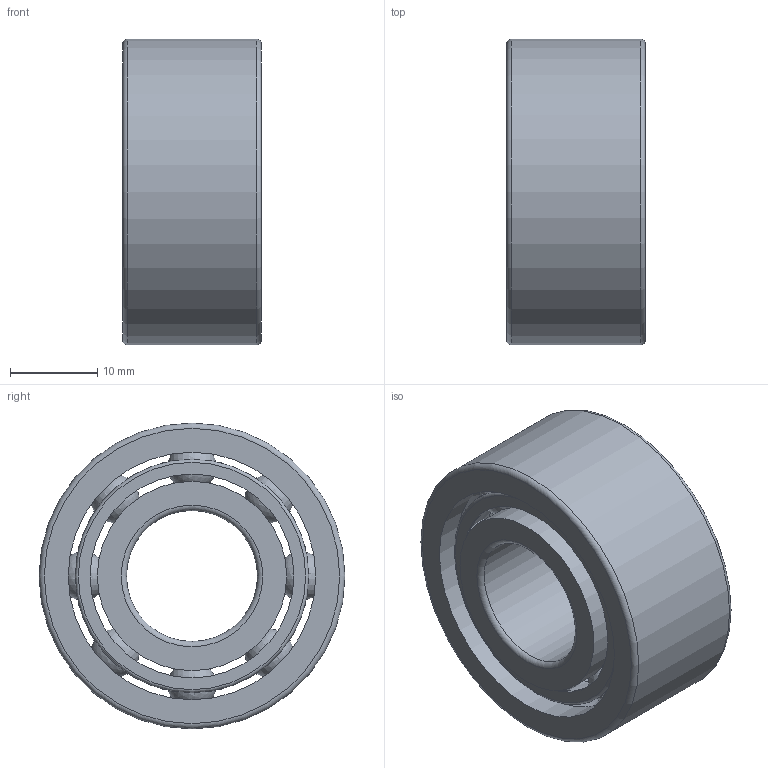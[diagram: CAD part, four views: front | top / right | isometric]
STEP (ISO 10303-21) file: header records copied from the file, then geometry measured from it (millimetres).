
FILE_DESCRIPTION(/* description */ (''),/* implementation_level */ '2;1');
FILE_NAME(/* name */ 'D:\moje\parametrické\32--,33--\32--\32--\3202.stp',/* time_stamp */ '2016-03-17T10:51:34+01:00',/* author */ ('OUBALASKO'),/* organization */ (''),/* preprocessor_version */ 'ST-DEVELOPER v15.2',/* originating_system */ 'Autodesk Inventor 2014',/* authorisation */ '');
FILE_SCHEMA (('AUTOMOTIVE_DESIGN { 1 0 10303 214 3 1 1 }'));
Length unit declared in the file: millimetre
Products named in the file (5): 3202-02; 3202-ball; 3202-cage; 3202-01; 3202
Bounding box: 15.9 x 35 x 35 mm (x, y, z)
Volume: 8905.4 mm3; surface area: 9551.8 mm2
Topology: 20 solids, 20 shells, 82 faces, 206 edges, 132 vertices
Faces by surface type: plane 24, sphere 16, bspline 16, cylinder 14, torus 12
Full cylindrical faces by diameter (mm): 15 x1, 21.666 x3, 23.333 x2, 26.111 x2, 26.711 x2, 28.334 x3, 35 x1
Entity records: 1966 total; most frequent: CARTESIAN_POINT 924, DIRECTION 208, ORIENTED_EDGE 150, AXIS2_PLACEMENT_3D 104, EDGE_CURVE 75, EDGE_LOOP 71, VERTEX_POINT 60, ADVANCED_FACE 44
